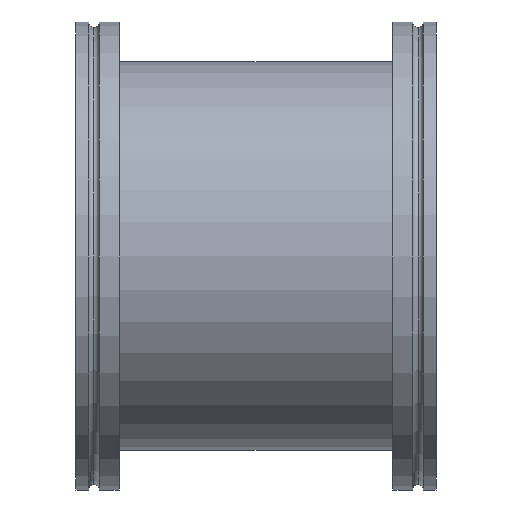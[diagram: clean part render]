
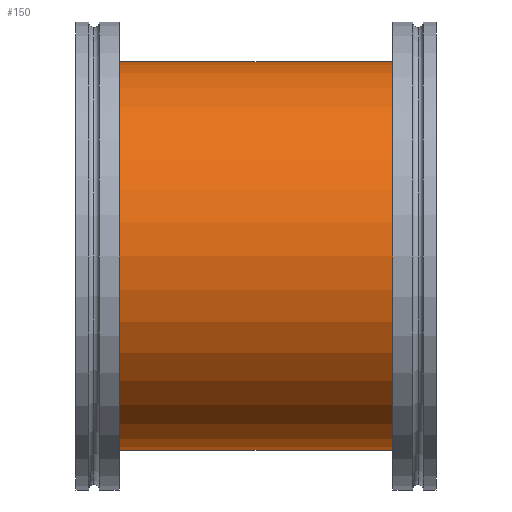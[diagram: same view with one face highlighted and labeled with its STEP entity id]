
A CAD part, left-side view. The second image highlights one B-rep face of the part: STEP entity #150.
In plain terms, the highlighted cylindrical face has radius 54 mm (diameter 108 mm), a partial arc.
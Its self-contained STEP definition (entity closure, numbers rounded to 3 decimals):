
#25 = CARTESIAN_POINT ( 'NONE',  ( 0., 8., 0. ) ) ;
#83 = AXIS2_PLACEMENT_3D ( 'NONE', #25, #771, #1047 ) ;
#105 = CYLINDRICAL_SURFACE ( 'NONE', #374, 54. ) ;
#107 = EDGE_LOOP ( 'NONE', ( #1105, #238, #752, #905 ) ) ;
#136 = VERTEX_POINT ( 'NONE', #1089 ) ;
#138 = CARTESIAN_POINT ( 'NONE',  ( 0., 92., -54. ) ) ;
#150 = ADVANCED_FACE ( 'NONE', ( #986 ), #105, .T. ) ;
#154 = EDGE_CURVE ( 'NONE', #465, #419, #348, .T. ) ;
#161 = EDGE_CURVE ( 'NONE', #465, #136, #317, .T. ) ;
#238 = ORIENTED_EDGE ( 'NONE', *, *, #154, .F. ) ;
#269 = CARTESIAN_POINT ( 'NONE',  ( 0., 92., 0. ) ) ;
#288 = LINE ( 'NONE', #938, #456 ) ;
#317 = LINE ( 'NONE', #450, #1011 ) ;
#348 = CIRCLE ( 'NONE', #381, 54. ) ;
#374 = AXIS2_PLACEMENT_3D ( 'NONE', #269, #918, #460 ) ;
#381 = AXIS2_PLACEMENT_3D ( 'NONE', #1097, #1180, #650 ) ;
#419 = VERTEX_POINT ( 'NONE', #1122 ) ;
#420 = VERTEX_POINT ( 'NONE', #1129 ) ;
#450 = CARTESIAN_POINT ( 'NONE',  ( 0., 92., -54. ) ) ;
#456 = VECTOR ( 'NONE', #958, 1000. ) ;
#460 = DIRECTION ( 'NONE',  ( 0., 0., -1. ) ) ;
#465 = VERTEX_POINT ( 'NONE', #138 ) ;
#650 = DIRECTION ( 'NONE',  ( 0., 0., 1. ) ) ;
#652 = DIRECTION ( 'NONE',  ( 0., -1., 0. ) ) ;
#752 = ORIENTED_EDGE ( 'NONE', *, *, #161, .T. ) ;
#771 = DIRECTION ( 'NONE',  ( 0., 1., 0. ) ) ;
#905 = ORIENTED_EDGE ( 'NONE', *, *, #923, .T. ) ;
#918 = DIRECTION ( 'NONE',  ( 0., -1., 0. ) ) ;
#923 = EDGE_CURVE ( 'NONE', #136, #420, #1157, .T. ) ;
#938 = CARTESIAN_POINT ( 'NONE',  ( 0., 92., 54. ) ) ;
#958 = DIRECTION ( 'NONE',  ( 0., -1., 0. ) ) ;
#986 = FACE_OUTER_BOUND ( 'NONE', #107, .T. ) ;
#1011 = VECTOR ( 'NONE', #652, 1000. ) ;
#1047 = DIRECTION ( 'NONE',  ( 0., 0., 1. ) ) ;
#1056 = EDGE_CURVE ( 'NONE', #419, #420, #288, .T. ) ;
#1089 = CARTESIAN_POINT ( 'NONE',  ( 0., 8., -54. ) ) ;
#1097 = CARTESIAN_POINT ( 'NONE',  ( 0., 92., 0. ) ) ;
#1105 = ORIENTED_EDGE ( 'NONE', *, *, #1056, .F. ) ;
#1122 = CARTESIAN_POINT ( 'NONE',  ( 0., 92., 54. ) ) ;
#1129 = CARTESIAN_POINT ( 'NONE',  ( 0., 8., 54. ) ) ;
#1157 = CIRCLE ( 'NONE', #83, 54. ) ;
#1180 = DIRECTION ( 'NONE',  ( 0., 1., 0. ) ) ;
